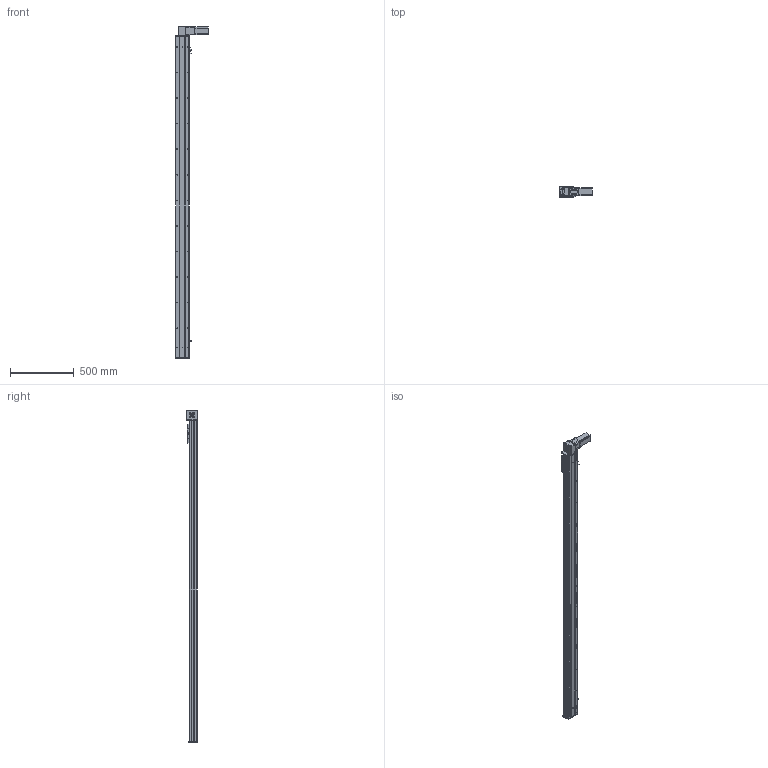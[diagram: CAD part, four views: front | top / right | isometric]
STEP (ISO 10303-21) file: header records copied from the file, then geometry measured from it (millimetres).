
FILE_DESCRIPTION (( 'STEP AP203' ), '1' );
FILE_NAME ('Y10CB-D90-S2250-BD-P400W.STEP', '2020-02-17T02:59:59', ( '微软用户' ), ( '微软中国' ), 'SwSTEP 2.0', 'SolidWorks 2017', '' );
FILE_SCHEMA (( 'CONFIG_CONTROL_DESIGN' ));
Length unit declared in the file: millimetre
Products named in the file (16): Y135C-陔俋离換覜結え-; san松下电机400不带刹车----; Y100-135俋离換覜ん--; 0B-源倛裔啣; Y10B--々湍喘謫眊--666; 0B-埴倛裔啣; 0B-薊粣ん眊; 10CB-詩湍-; Y10CB-D90-S2250-BD-P400W; Y10CB- 掛极耜裔啣-毀---; Y10C---詩湍揤啣; 0CB-雄赽釱---; 10CB9-掛极; 0Cb-俋欶---; 10CB-耜裔; Y10B-々湍喘謫眊楊擘啣--
Assembly tree (19 placements, depth 2):
  Y10CB-D90-S2250-BD-P400W
    0CB-雄赽釱---
    0Cb-俋欶---
    Y10B-々湍喘謫眊楊擘啣--
    san松下电机400不带刹车----
    0B-源倛裔啣
    0B-埴倛裔啣
    10CB-詩湍-
    Y10CB- 掛极耜裔啣-毀---  x2
    Y10C---詩湍揤啣  x2
    10CB9-掛极
    10CB-耜裔
    Y135C-陔俋离換覜結え-
    Y100-135俋离換覜ん--  x3
    Y10B--々湍喘謫眊--666
    0B-薊粣ん眊
Bounding box: 258 x 80.5 x 2596 mm (x, y, z)
Volume: 5317529 mm3; surface area: 2468256.2 mm2
Topology: 19 solids, 19 shells, 972 faces, 2622 edges, 1700 vertices
Faces by surface type: cylinder 500, plane 448, cone 24
Entity records: 30569 total; most frequent: CARTESIAN_POINT 5792, DIRECTION 4865, ORIENTED_EDGE 4714, EDGE_CURVE 2357, AXIS2_PLACEMENT_3D 1743, VERTEX_POINT 1526, VECTOR 1379, LINE 1379
